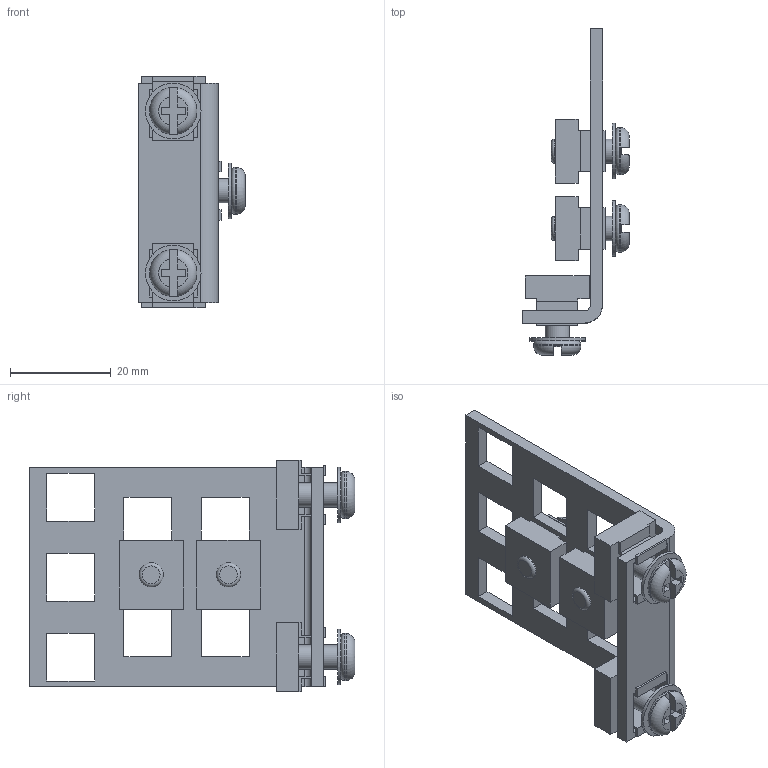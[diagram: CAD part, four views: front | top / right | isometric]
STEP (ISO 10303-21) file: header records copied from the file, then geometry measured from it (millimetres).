
FILE_DESCRIPTION(/* description */ ('Unknown'),/* implementation_level */ '2;1');
FILE_NAME(/* name */ 'FSRA',/* time_stamp */ '2019-01-10T13:58:17-05:00',/* author */ ('Unknown'),/* organization */ ('Unknown'),/* preprocessor_version */ 'ST-DEVELOPER v16.7',/* originating_system */ 'DEX',/* authorisation */ $);
FILE_SCHEMA (('AUTOMOTIVE_DESIGN {1 0 10303 214 3 1 1}'));
Length unit declared in the file: millimetre
Products named in the file (5): FSRA-19 IN MTG; WAF25021; NTS18095; SCS18970; COM57162-1
Assembly tree (13 placements, depth 2):
  FSRA-19 IN MTG
    WAF25021  x4
    NTS18095  x4
    SCS18970  x4
    COM57162-1
Bounding box: 21.21 x 64.79 x 45.91 mm (x, y, z)
Volume: 9946.9 mm3; surface area: 11571.5 mm2
Topology: 13 solids, 13 shells, 242 faces, 632 edges, 420 vertices
Faces by surface type: plane 208, cylinder 22, torus 12
Full cylindrical faces by diameter (mm): 4.039 x4, 4.826 x4, 5.258 x4, 9.398 x4, 11.049 x4
Entity records: 3329 total; most frequent: CARTESIAN_POINT 575, ORIENTED_EDGE 528, DIRECTION 510, EDGE_CURVE 264, LINE 240, VECTOR 240, VERTEX_POINT 180, EDGE_LOOP 136
